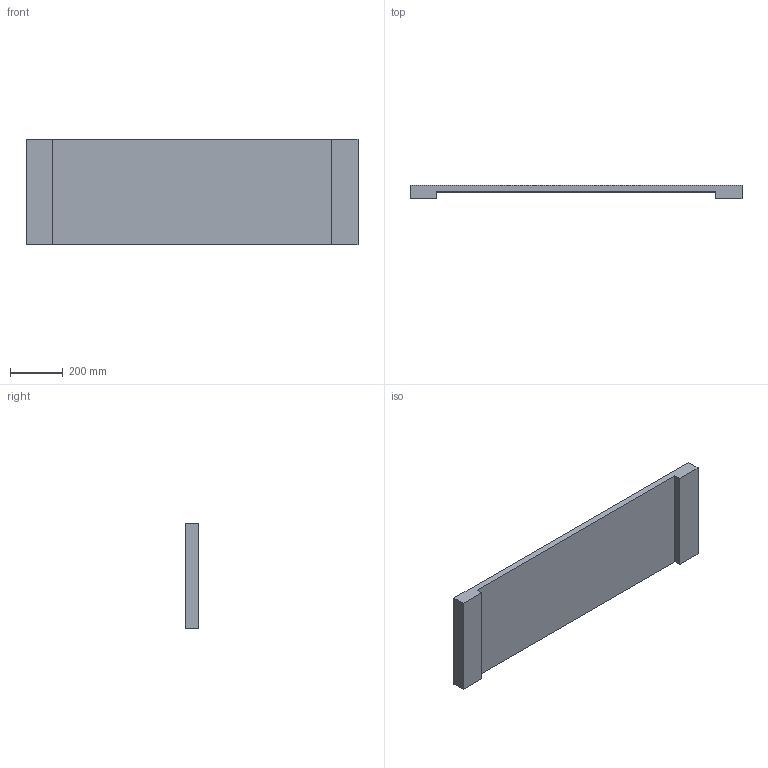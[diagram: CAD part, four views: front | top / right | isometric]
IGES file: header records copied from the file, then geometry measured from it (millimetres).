
Start section: START RECORD GO HERE.
Global section: file name: axe-Z.igs; native system: IBM CATIA IGES - CATIA Version 5 Release 10 ; preprocessor: CATIA Version 5 Release 10 ; date: 20030711.094204; units: millimetre
Bounding box: 1260 x 50 x 400 mm (x, y, z)
Surface area: 1140950 mm2 (no closed solid volume)
Topology: 0 solids, 0 shells, 10 faces, 48 edges, 48 vertices
Faces by surface type: plane 10
